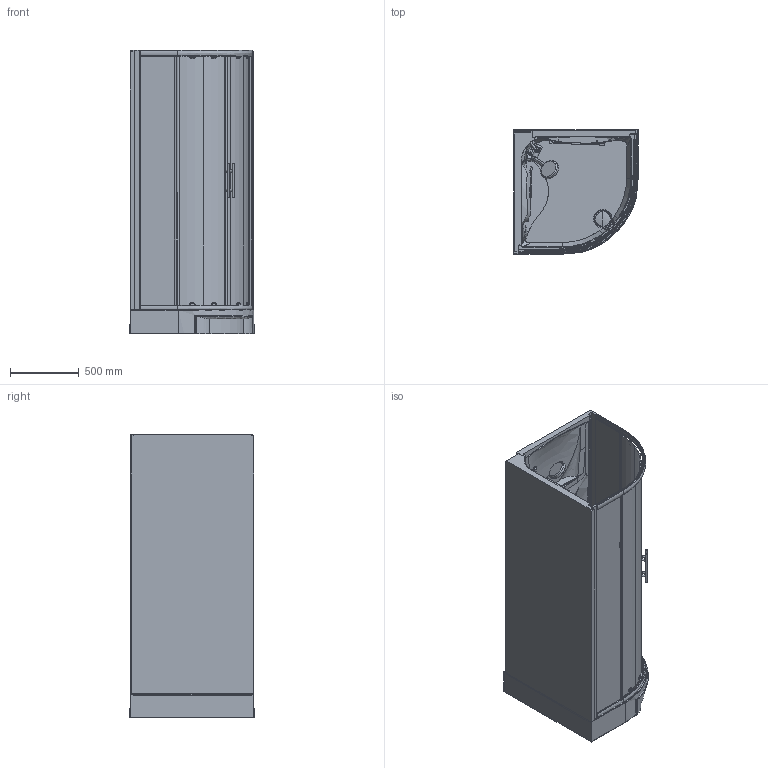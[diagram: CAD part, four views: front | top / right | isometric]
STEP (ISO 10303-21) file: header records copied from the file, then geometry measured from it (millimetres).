
FILE_DESCRIPTION(('STEP AP203'),'2;1');
FILE_NAME('NNH R 90 T.stp','2015-09-04T15:15:56',(''),(''),'2014.1.117','THINKDESIGN','');
FILE_SCHEMA(('CONFIG_CONTROL_DESIGN'));
Length unit declared in the file: millimetre
Products named in the file (1): top
Bounding box: 902.54 x 902.53 x 2063.06 mm (x, y, z)
Volume: 204841043.8 mm3; surface area: 17143307.6 mm2
Topology: 41 solids, 41 shells, 825 faces, 1988 edges, 1246 vertices
Faces by surface type: bspline 575, plane 204, cylinder 46
Entity records: 97102 total; most frequent: CARTESIAN_POINT 81773, ORIENTED_EDGE 3932, EDGE_CURVE 1966, DIRECTION 1684, VERTEX_POINT 1238, EDGE_LOOP 838, FACE_OUTER_BOUND 823, ADVANCED_FACE 823
